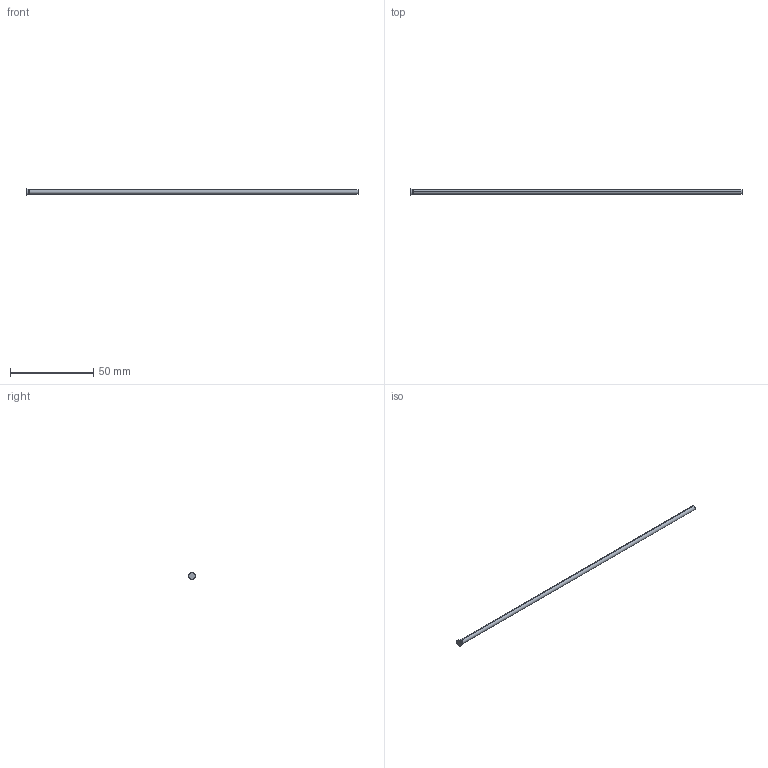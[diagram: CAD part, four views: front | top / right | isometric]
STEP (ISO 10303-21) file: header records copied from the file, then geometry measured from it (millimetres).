
FILE_DESCRIPTION (( 'STEP AP214' ), '1' );
FILE_NAME ('D-2,7x200.STEP', '2020-06-08T10:28:46', ( 'August' ), ( '' ), 'SwSTEP 2.0', 'SolidWorks 2018', '' );
FILE_SCHEMA (( 'AUTOMOTIVE_DESIGN' ));
Length unit declared in the file: millimetre
Products named in the file (1): D-2,7x200
Bounding box: 200 x 4 x 4 mm (x, y, z)
Volume: 1152.2 mm3; surface area: 1720.9 mm2
Topology: 1 solids, 1 shells, 10 faces, 18 edges, 10 vertices
Faces by surface type: cylinder 4, torus 2, cone 2, plane 2
Entity records: 280 total; most frequent: DIRECTION 52, CARTESIAN_POINT 39, ORIENTED_EDGE 36, AXIS2_PLACEMENT_3D 23, EDGE_CURVE 18, CIRCLE 12, FACE_OUTER_BOUND 10, VERTEX_POINT 10
